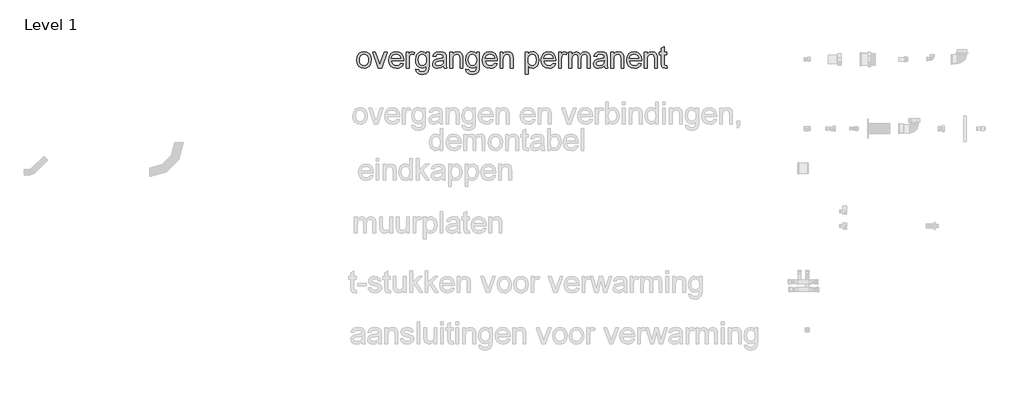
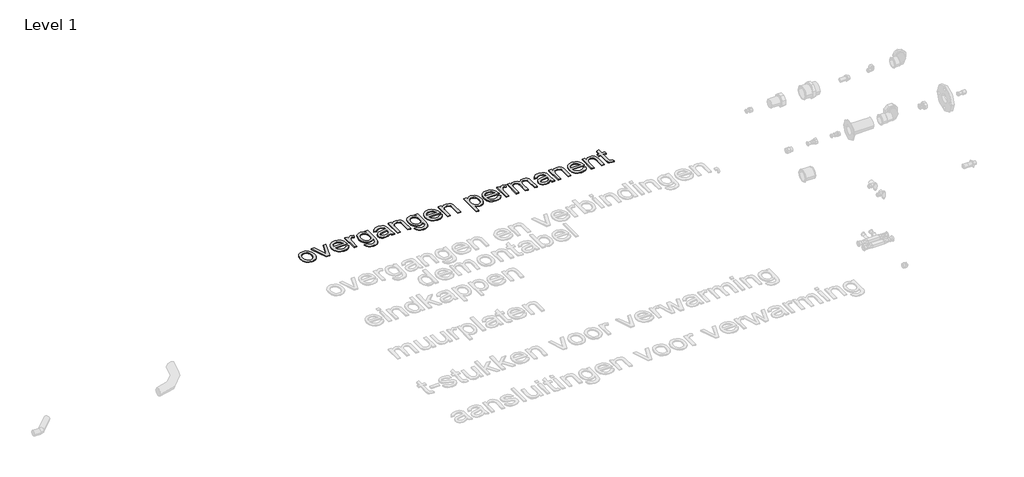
# One storey, part 5 of 7: 1 proxy.
"""IFC4 building model written with IfcOpenShell, lengths in millimetres."""

from ifc_helpers import new_model, si_unit, origin, origin_with_axes, place, context, project, spatial, polyline, outline, extrude, element, save

model = new_model("IFC4")

# Units and contexts
model_context = context("Model", 3, world=origin())
ifc_project = project(units=[si_unit("LENGTHUNIT", "METRE", prefix="MILLI")], contexts=[model_context])

# Site, building, storey
site = spatial("IfcSite", under=ifc_project)
building = spatial("IfcBuilding", under=site)
storey = spatial("IfcBuildingStorey", under=building, Name="Level 1", Elevation=0.0)

# Proxy
placement = place(None, origin())
element("IfcBuildingElementProxy", 1, Name="small", ObjectType="small", at=placement, inside=storey, context=model_context, shape_type="SweptSolid", body=[
    extrude(outline(polyline([(2281.3157886, 5667.0826623), (2285.1184622, 5691.9845946), (2296.5264828, 5709.4871936), (2310.6212683, 5718.0625229), (2327.4972417, 5720.920966), (2345.965531, 5717.4401892), (2360.7169859, 5706.9978588), (2370.3867641, 5690.4180304), (2373.6100235, 5668.5247597), (2372.185094, 5650.7646433), (2367.9103052, 5637.2449799), (2360.9101239, 5627.1202543), (2351.309017, 5619.5449509), (2339.9052883, 5614.8195067), (2327.4972417, 5613.2443586), (2308.8057707, 5616.7122595), (2294.0714836, 5627.1159623), (2284.5047124, 5644.0434392), (2281.3157886, 5667.0826623)]), holes=[polyline([(2298.8956429, 5667.116998), (2300.9300303, 5651.2067148), (2307.0331926, 5639.8716574), (2316.2179798, 5633.086074), (2327.4972417, 5630.8242129), (2338.7250002, 5633.0989499), (2347.8926195, 5639.9231609), (2353.9957818, 5651.4084368), (2356.0301693, 5667.6663684), (2353.982906, 5683.1131202), (2347.8411161, 5694.2936672), (2338.6606209, 5701.0792506), (2327.4972417, 5703.3411117), (2316.2179798, 5701.0878345), (2307.0331926, 5694.3280029), (2300.9300303, 5683.0186972), (2298.8956429, 5667.116998)])]), origin_with_axes(), (0.0, 0.0, 1.0), 5.0),
    extrude(outline(polyline([(2418.7270714, 5615.4418404), (2382.3999507, 5718.7234842), (2401.0098745, 5718.7234842), (2423.019028, 5656.8506377), (2429.6458091, 5636.0432321), (2436.1352474, 5655.6832255), (2458.2817436, 5718.7234842), (2476.8916674, 5718.7234842), (2441.0109102, 5615.4418404), (2418.7270714, 5615.4418404)])), origin_with_axes(), (0.0, 0.0, 1.0), 5.0),
    extrude(outline(polyline([(2564.5849249, 5646.2065853), (2581.8214226, 5644.0091036), (2575.6109614, 5631.0216429), (2565.7008336, 5621.313237), (2552.3142209, 5615.2615782), (2535.6743052, 5613.2443586), (2515.0471617, 5616.7251354), (2499.1755061, 5627.1674658), (2489.0550725, 5643.8932207), (2485.6815946, 5666.224271), (2489.0894081, 5689.3064136), (2499.3128488, 5706.5686631), (2514.9699065, 5717.3328903), (2534.6785712, 5720.920966), (2553.7734862, 5717.3414742), (2569.0313919, 5706.6029988), (2579.0359428, 5689.3750849), (2582.3707931, 5666.3272779), (2582.2677861, 5661.5889578), (2503.2614488, 5661.5889578), (2506.3044461, 5648.4298189), (2513.3732986, 5638.7557487), (2523.5752795, 5632.8070968), (2536.0176617, 5630.8242129), (2553.2541594, 5634.4981277), (2564.5849249, 5646.2065853)]), holes=[polyline([(2503.2614488, 5679.1688121), (2564.7909388, 5679.1688121), (2557.75213, 5695.1005551), (2547.5029376, 5701.2809726), (2534.6098999, 5703.3411117), (2522.7598077, 5701.6972924), (2512.9612708, 5696.7658342), (2506.1499356, 5689.0789399), (2503.2614488, 5679.1688121)])]), origin_with_axes(), (0.0, 0.0, 1.0), 5.0),
    extrude(outline(polyline([(2599.9506474, 5615.4418404), (2599.9506474, 5718.7234842), (2615.3330198, 5718.7234842), (2615.3330198, 5703.4441187), (2626.2517575, 5717.5217364), (2637.2391664, 5720.920966), (2654.887692, 5715.4959329), (2649.0162953, 5699.7358682), (2636.6554603, 5703.3411117), (2626.7152888, 5699.8732108), (2620.3803608, 5690.259228), (2617.5305016, 5669.7265076), (2617.5305016, 5615.4418404), (2599.9506474, 5615.4418404)])), origin_with_axes(), (0.0, 0.0, 1.0), 5.0),
    extrude(outline(polyline([(2661.4801373, 5606.6519132), (2679.0599916, 5604.4544314), (2684.75971, 5595.1838052), (2701.8245295, 5591.2695407), (2719.8164116, 5595.69884), (2728.4003248, 5608.1283463), (2729.6020726, 5628.6267311), (2717.2240698, 5618.738063), (2702.1335503, 5615.4418404), (2684.0086176, 5619.2788496), (2670.4932462, 5630.7898772), (2662.0853032, 5647.6658506), (2659.2826555, 5667.5976971), (2664.3128287, 5694.8430377), (2670.4674945, 5705.9034098), (2678.8711455, 5714.1225068), (2689.2362207, 5719.2213512), (2701.275159, 5720.920966), (2716.9579685, 5717.0753729), (2729.6020726, 5705.5385935), (2729.6020726, 5718.7234842), (2747.1819269, 5718.7234842), (2747.1819269, 5629.5537937), (2745.9801791, 5608.9652778), (2742.3749355, 5595.4069869), (2736.1644743, 5586.4153378), (2727.1470735, 5579.5267474), (2715.520163, 5575.1489517), (2701.4811729, 5573.6896865), (2685.1245263, 5575.7455337), (2672.2443645, 5581.9130753), (2663.982348, 5592.2094792), (2661.4801373, 5606.6519132)]), holes=[polyline([(2676.8625098, 5668.7994449), (2678.7380948, 5652.674564), (2684.36485, 5641.58844), (2692.8242964, 5635.163381), (2703.1979556, 5633.0216946), (2713.4943595, 5635.1505051), (2721.9967255, 5641.5369366), (2727.7007359, 5652.4814259), (2729.6020726, 5668.2844102), (2727.6449404, 5683.5251481), (2721.7735438, 5694.4996811), (2713.146711, 5701.1307541), (2702.9232703, 5703.3411117), (2692.8843838, 5701.1650897), (2684.4678569, 5694.6370237), (2678.7638466, 5683.825585), (2676.8625098, 5668.7994449)])]), origin_with_axes(), (0.0, 0.0, 1.0), 5.0),
    extrude(outline(polyline([(2839.4761619, 5628.6267311), (2822.4285102, 5616.7122595), (2803.5954046, 5613.2443586), (2788.9040371, 5615.3302495), (2778.0668467, 5621.5879222), (2771.3842702, 5631.0903142), (2769.1567448, 5642.9103627), (2772.5216387, 5656.8163021), (2781.3630694, 5666.910984), (2793.6724009, 5672.6793737), (2808.8830951, 5675.323219), (2839.3731549, 5681.3662939), (2839.4761619, 5685.2805583), (2838.2658301, 5693.126255), (2834.6348348, 5698.2594351), (2826.5144529, 5702.0706926), (2815.2008553, 5703.3411117), (2797.4149871, 5699.9590499), (2788.9340808, 5687.9587393), (2771.3542265, 5690.156221), (2778.9595737, 5707.3240475), (2794.2732748, 5717.3843938), (2817.4670084, 5720.920966), (2838.772281, 5717.7964216), (2850.8069273, 5709.9507249), (2856.1976248, 5698.0190855), (2857.0560161, 5682.6367131), (2857.0560161, 5660.7649022), (2857.9487431, 5630.2233389), (2861.4509797, 5615.4418404), (2843.8711254, 5615.4418404), (2839.4761619, 5628.6267311)]), holes=[polyline([(2839.4761619, 5663.7864396), (2811.1149126, 5658.3957421), (2795.9900575, 5655.5458829), (2789.1400947, 5650.9105698), (2786.736599, 5644.1464462), (2791.9727861, 5634.6354703), (2807.3379908, 5630.8242129), (2825.123859, 5635.0303303), (2836.591967, 5645.2108514), (2839.3731549, 5658.80777), (2839.4761619, 5663.7864396)])]), origin_with_axes(), (0.0, 0.0, 1.0), 5.0),
    extrude(outline(polyline([(2881.2283158, 5615.4418404), (2881.2283158, 5718.7234842), (2898.80817, 5718.7234842), (2898.80817, 5704.30251), (2912.2505782, 5716.766352), (2930.6029846, 5720.920966), (2947.2042728, 5717.5732399), (2958.5350382, 5708.7833127), (2963.805561, 5695.8559394), (2964.7326236, 5678.8597912), (2964.7326236, 5615.4418404), (2947.1527693, 5615.4418404), (2947.1527693, 5676.4906312), (2945.1269658, 5692.0446819), (2937.9679822, 5700.2680708), (2925.8990002, 5703.3411117), (2915.6025963, 5701.6157452), (2906.825545, 5696.4396455), (2900.8125138, 5686.4393866), (2898.80817, 5670.2415424), (2898.80817, 5615.4418404), (2881.2283158, 5615.4418404)])), origin_with_axes(), (0.0, 0.0, 1.0), 5.0),
    extrude(outline(polyline([(2984.5099596, 5606.6519132), (3002.0898139, 5604.4544314), (3007.7895323, 5595.1838052), (3024.8543518, 5591.2695407), (3042.8462339, 5595.69884), (3051.4301471, 5608.1283463), (3052.631895, 5628.6267311), (3040.2538921, 5618.738063), (3025.1633727, 5615.4418404), (3007.0384399, 5619.2788496), (2993.5230685, 5630.7898772), (2985.1151255, 5647.6658506), (2982.3124779, 5667.5976971), (2987.342651, 5694.8430377), (2993.4973168, 5705.9034098), (3001.9009678, 5714.1225068), (3012.266043, 5719.2213512), (3024.3049813, 5720.920966), (3039.9877908, 5717.0753729), (3052.631895, 5705.5385935), (3052.631895, 5718.7234842), (3070.2117492, 5718.7234842), (3070.2117492, 5629.5537937), (3069.0100014, 5608.9652778), (3065.4047578, 5595.4069869), (3059.1942966, 5586.4153378), (3050.1768958, 5579.5267474), (3038.5499853, 5575.1489517), (3024.5109953, 5573.6896865), (3008.1543486, 5575.7455337), (2995.2741868, 5581.9130753), (2987.0121703, 5592.2094792), (2984.5099596, 5606.6519132)]), holes=[polyline([(2999.8923321, 5668.7994449), (3001.7679172, 5652.674564), (3007.3946723, 5641.58844), (3015.8541188, 5635.163381), (3026.2277779, 5633.0216946), (3036.5241818, 5635.1505051), (3045.0265479, 5641.5369366), (3050.7305582, 5652.4814259), (3052.631895, 5668.2844102), (3050.6747627, 5683.5251481), (3044.8033661, 5694.4996811), (3036.1765333, 5701.1307541), (3025.9530927, 5703.3411117), (3015.9142062, 5701.1650897), (3007.4976792, 5694.6370237), (3001.7936689, 5683.825585), (2999.8923321, 5668.7994449)])]), origin_with_axes(), (0.0, 0.0, 1.0), 5.0),
    extrude(outline(polyline([(3168.8924156, 5646.2065853), (3186.1289134, 5644.0091036), (3179.9184522, 5631.0216429), (3170.0083243, 5621.313237), (3156.6217117, 5615.2615782), (3139.9817959, 5613.2443586), (3119.3546524, 5616.7251354), (3103.4829969, 5627.1674658), (3093.3625632, 5643.8932207), (3089.9890853, 5666.224271), (3093.3968988, 5689.3064136), (3103.6203395, 5706.5686631), (3119.2773972, 5717.3328903), (3138.986062, 5720.920966), (3158.0809769, 5717.3414742), (3173.3388827, 5706.6029988), (3183.3434335, 5689.3750849), (3186.6782838, 5666.3272779), (3186.5752769, 5661.5889578), (3107.5689396, 5661.5889578), (3110.6119368, 5648.4298189), (3117.6807894, 5638.7557487), (3127.8827702, 5632.8070968), (3140.3251524, 5630.8242129), (3157.5616502, 5634.4981277), (3168.8924156, 5646.2065853)]), holes=[polyline([(3107.5689396, 5679.1688121), (3169.0984295, 5679.1688121), (3162.0596207, 5695.1005551), (3151.8104283, 5701.2809726), (3138.9173907, 5703.3411117), (3127.0672985, 5701.6972924), (3117.2687615, 5696.7658342), (3110.4574264, 5689.0789399), (3107.5689396, 5679.1688121)])]), origin_with_axes(), (0.0, 0.0, 1.0), 5.0),
    extrude(outline(polyline([(3204.2581381, 5615.4418404), (3204.2581381, 5718.7234842), (3221.8379924, 5718.7234842), (3221.8379924, 5704.30251), (3235.2804005, 5716.766352), (3253.6328069, 5720.920966), (3270.2340951, 5717.5732399), (3281.5648606, 5708.7833127), (3286.8353833, 5695.8559394), (3287.7624459, 5678.8597912), (3287.7624459, 5615.4418404), (3270.1825916, 5615.4418404), (3270.1825916, 5676.4906312), (3268.1567881, 5692.0446819), (3260.9978045, 5700.2680708), (3248.9288225, 5703.3411117), (3238.6324186, 5701.6157452), (3229.8553673, 5696.4396455), (3223.8423361, 5686.4393866), (3221.8379924, 5670.2415424), (3221.8379924, 5615.4418404), (3204.2581381, 5615.4418404)])), origin_with_axes(), (0.0, 0.0, 1.0), 5.0),
    extrude(outline(polyline([(3366.8717902, 5575.8871682), (3366.8717902, 5718.7234842), (3384.4516444, 5718.7234842), (3384.4516444, 5701.4869865), (3396.6064655, 5716.0624711), (3413.0189076, 5720.920966), (3424.9076274, 5719.2213512), (3435.3027463, 5714.1225068), (3443.7664848, 5705.9334535), (3449.8610632, 5694.9632124), (3454.7710615, 5667.8723823), (3449.2258536, 5639.3909582), (3442.4273943, 5628.2147032), (3433.1224324, 5619.9913144), (3422.2852419, 5614.9310975), (3410.8900971, 5613.2443586), (3395.5935638, 5617.7594969), (3384.4516444, 5629.1761015), (3384.4516444, 5575.8871682), (3366.8717902, 5575.8871682)]), holes=[polyline([(3384.4516444, 5666.2586066), (3386.3529812, 5650.498542), (3392.0569915, 5639.4767974), (3400.4735185, 5632.987359), (3410.512405, 5630.8242129), (3420.7143858, 5633.0646142), (3429.3455106, 5639.7858183), (3435.2297831, 5651.2110068), (3437.1912073, 5667.5633614), (3435.2769946, 5683.237587), (3429.5343567, 5694.413842), (3421.1307056, 5701.1092943), (3411.2334537, 5703.3411117), (3401.2975741, 5700.9676597), (3392.5720263, 5693.8473037), (3386.4817399, 5682.2032254), (3384.4516444, 5666.2586066)])]), origin_with_axes(), (0.0, 0.0, 1.0), 5.0),
    extrude(outline(polyline([(3546.8592826, 5646.2065853), (3564.0957803, 5644.0091036), (3557.8853191, 5631.0216429), (3547.9751913, 5621.313237), (3534.5885786, 5615.2615782), (3517.9486628, 5613.2443586), (3497.3215194, 5616.7251354), (3481.4498638, 5627.1674658), (3471.3294301, 5643.8932207), (3467.9559522, 5666.224271), (3471.3637658, 5689.3064136), (3481.5872064, 5706.5686631), (3497.2442641, 5717.3328903), (3516.9529289, 5720.920966), (3536.0478439, 5717.3414742), (3551.3057496, 5706.6029988), (3561.3103005, 5689.3750849), (3564.6451508, 5666.3272779), (3564.5421438, 5661.5889578), (3485.5358065, 5661.5889578), (3488.5788038, 5648.4298189), (3495.6476563, 5638.7557487), (3505.8496372, 5632.8070968), (3518.2920194, 5630.8242129), (3535.5285171, 5634.4981277), (3546.8592826, 5646.2065853)]), holes=[polyline([(3485.5358065, 5679.1688121), (3547.0652965, 5679.1688121), (3540.0264876, 5695.1005551), (3529.7772953, 5701.2809726), (3516.8842576, 5703.3411117), (3505.0341654, 5701.6972924), (3495.2356285, 5696.7658342), (3488.4242933, 5689.0789399), (3485.5358065, 5679.1688121)])]), origin_with_axes(), (0.0, 0.0, 1.0), 5.0),
    extrude(outline(polyline([(3582.225005, 5615.4418404), (3582.225005, 5718.7234842), (3597.6073775, 5718.7234842), (3597.6073775, 5703.4441187), (3608.5261151, 5717.5217364), (3619.5135241, 5720.920966), (3637.1620496, 5715.4959329), (3631.290653, 5699.7358682), (3618.929818, 5703.3411117), (3608.9896465, 5699.8732108), (3602.6547185, 5690.259228), (3599.8048593, 5669.7265076), (3599.8048593, 5615.4418404), (3582.225005, 5615.4418404)])), origin_with_axes(), (0.0, 0.0, 1.0), 5.0),
    extrude(outline(polyline([(3648.1494586, 5615.4418404), (3648.1494586, 5718.7234842), (3665.7293128, 5718.7234842), (3665.7293128, 5701.7273361), (3677.8154627, 5715.6504433), (3695.0176248, 5720.920966), (3712.6318147, 5715.5474363), (3722.3144688, 5700.4912526), (3736.0315621, 5715.8135377), (3753.353899, 5720.920966), (3766.5688334, 5718.7964475), (3776.3416186, 5712.4228919), (3782.3804016, 5701.6286211), (3784.3933292, 5686.2419566), (3784.3933292, 5615.4418404), (3766.8134749, 5615.4418404), (3766.8134749, 5678.688113), (3765.1825314, 5693.3666046), (3759.2767991, 5700.5942595), (3749.2336207, 5703.3411117), (3739.7097689, 5701.5814095), (3731.9456194, 5696.3023029), (3726.7823956, 5687.1432675), (3725.061321, 5673.743779), (3725.061321, 5615.4418404), (3707.4814668, 5615.4418404), (3707.4814668, 5680.6452452), (3703.4126919, 5697.675729), (3698.0434542, 5701.9247661), (3690.0732907, 5703.3411117), (3677.0600783, 5699.5641899), (3668.4074938, 5688.5081097), (3665.7293128, 5667.5290258), (3665.7293128, 5615.4418404), (3648.1494586, 5615.4418404)])), origin_with_axes(), (0.0, 0.0, 1.0), 5.0),
    extrude(outline(polyline([(3876.6875642, 5628.6267311), (3859.6399125, 5616.7122595), (3840.8068069, 5613.2443586), (3826.1154394, 5615.3302495), (3815.278249, 5621.5879222), (3808.5956725, 5631.0903142), (3806.3681471, 5642.9103627), (3809.733041, 5656.8163021), (3818.5744717, 5666.910984), (3830.8838032, 5672.6793737), (3846.0944974, 5675.323219), (3876.5845572, 5681.3662939), (3876.6875642, 5685.2805583), (3875.4772324, 5693.126255), (3871.8462371, 5698.2594351), (3863.7258552, 5702.0706926), (3852.4122576, 5703.3411117), (3834.6263894, 5699.9590499), (3826.1454831, 5687.9587393), (3808.5656288, 5690.156221), (3816.170976, 5707.3240475), (3831.4846771, 5717.3843938), (3854.6784107, 5720.920966), (3875.9836833, 5717.7964216), (3888.0183296, 5709.9507249), (3893.4090271, 5698.0190855), (3894.2674184, 5682.6367131), (3894.2674184, 5660.7649022), (3895.1601454, 5630.2233389), (3898.662382, 5615.4418404), (3881.0825277, 5615.4418404), (3876.6875642, 5628.6267311)]), holes=[polyline([(3876.6875642, 5663.7864396), (3848.3263149, 5658.3957421), (3833.2014598, 5655.5458829), (3826.351497, 5650.9105698), (3823.9480013, 5644.1464462), (3829.1841884, 5634.6354703), (3844.5493931, 5630.8242129), (3862.3352613, 5635.0303303), (3873.8033693, 5645.2108514), (3876.5845572, 5658.80777), (3876.6875642, 5663.7864396)])]), origin_with_axes(), (0.0, 0.0, 1.0), 5.0),
    extrude(outline(polyline([(3918.4397181, 5615.4418404), (3918.4397181, 5718.7234842), (3936.0195723, 5718.7234842), (3936.0195723, 5704.30251), (3949.4619804, 5716.766352), (3967.8143869, 5720.920966), (3984.4156751, 5717.5732399), (3995.7464405, 5708.7833127), (4001.0169632, 5695.8559394), (4001.9440259, 5678.8597912), (4001.9440259, 5615.4418404), (3984.3641716, 5615.4418404), (3984.3641716, 5676.4906312), (3982.3383681, 5692.0446819), (3975.1793845, 5700.2680708), (3963.1104025, 5703.3411117), (3952.8139986, 5701.6157452), (3944.0369473, 5696.4396455), (3938.0239161, 5686.4393866), (3936.0195723, 5670.2415424), (3936.0195723, 5615.4418404), (3918.4397181, 5615.4418404)])), origin_with_axes(), (0.0, 0.0, 1.0), 5.0),
    extrude(outline(polyline([(4098.4272105, 5646.2065853), (4115.6637082, 5644.0091036), (4109.453247, 5631.0216429), (4099.5431192, 5621.313237), (4086.1565065, 5615.2615782), (4069.5165908, 5613.2443586), (4048.8894473, 5616.7251354), (4033.0177917, 5627.1674658), (4022.897358, 5643.8932207), (4019.5238802, 5666.224271), (4022.9316937, 5689.3064136), (4033.1551343, 5706.5686631), (4048.8121921, 5717.3328903), (4068.5208568, 5720.920966), (4087.6157718, 5717.3414742), (4102.8736775, 5706.6029988), (4112.8782284, 5689.3750849), (4116.2130787, 5666.3272779), (4116.1100717, 5661.5889578), (4037.1037344, 5661.5889578), (4040.1467317, 5648.4298189), (4047.2155842, 5638.7557487), (4057.4175651, 5632.8070968), (4069.8599473, 5630.8242129), (4087.096445, 5634.4981277), (4098.4272105, 5646.2065853)]), holes=[polyline([(4037.1037344, 5679.1688121), (4098.6332244, 5679.1688121), (4091.5944156, 5695.1005551), (4081.3452232, 5701.2809726), (4068.4521855, 5703.3411117), (4056.6020933, 5701.6972924), (4046.8035564, 5696.7658342), (4039.9922212, 5689.0789399), (4037.1037344, 5679.1688121)])]), origin_with_axes(), (0.0, 0.0, 1.0), 5.0),
    extrude(outline(polyline([(4133.7929329, 5615.4418404), (4133.7929329, 5718.7234842), (4151.3727872, 5718.7234842), (4151.3727872, 5704.30251), (4164.8151953, 5716.766352), (4183.1676018, 5720.920966), (4199.76889, 5717.5732399), (4211.0996554, 5708.7833127), (4216.3701781, 5695.8559394), (4217.2972408, 5678.8597912), (4217.2972408, 5615.4418404), (4199.7173865, 5615.4418404), (4199.7173865, 5676.4906312), (4197.691583, 5692.0446819), (4190.5325993, 5700.2680708), (4178.4636174, 5703.3411117), (4168.1672134, 5701.6157452), (4159.3901622, 5696.4396455), (4153.377131, 5686.4393866), (4151.3727872, 5670.2415424), (4151.3727872, 5615.4418404), (4133.7929329, 5615.4418404)])), origin_with_axes(), (0.0, 0.0, 1.0), 5.0),
    extrude(outline(polyline([(4278.8267307, 5630.1031641), (4281.0242125, 5614.9268056), (4267.8736575, 5613.2443586), (4253.1436624, 5616.1628891), (4245.7958327, 5623.8197397), (4243.6670222, 5643.768754), (4243.6670222, 5701.14363), (4230.4821315, 5701.14363), (4230.4821315, 5718.7234842), (4243.6670222, 5718.7234842), (4243.6670222, 5743.8228465), (4261.2468765, 5754.157878), (4261.2468765, 5718.7234842), (4278.8267307, 5718.7234842), (4278.8267307, 5701.14363), (4261.2468765, 5701.14363), (4261.2468765, 5644.2837888), (4262.1739391, 5635.2191764), (4265.1783087, 5632.0087929), (4271.1698801, 5630.8242129), (4278.8267307, 5630.1031641)])), origin_with_axes(), (0.0, 0.0, 1.0), 5.0),
])

save(model, "model.ifc")
